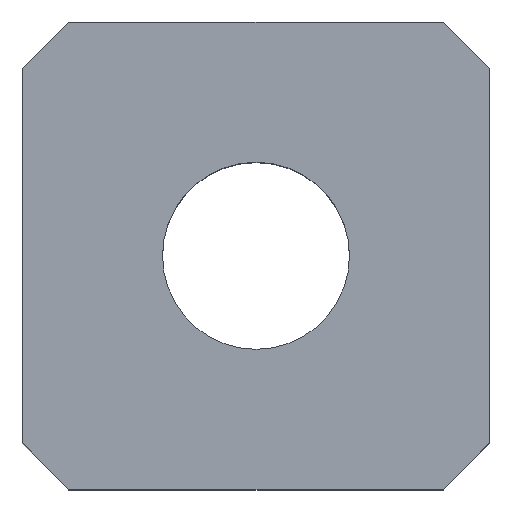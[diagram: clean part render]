
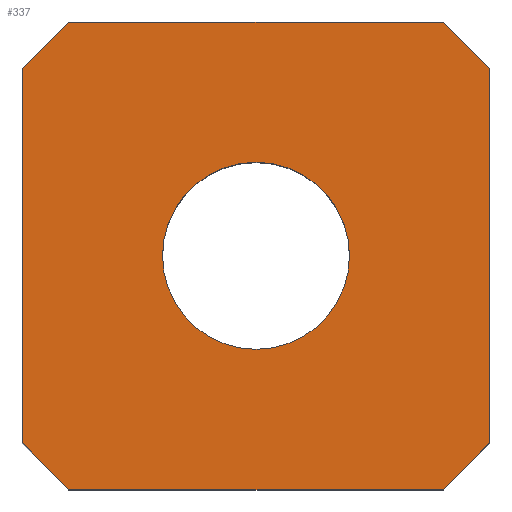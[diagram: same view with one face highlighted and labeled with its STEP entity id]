
A CAD part, top view. The second image highlights one B-rep face of the part: STEP entity #337.
In plain terms, the highlighted planar face has unit normal (0, 0, 1).
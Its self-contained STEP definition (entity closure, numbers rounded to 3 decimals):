
#7 = VECTOR ( 'NONE', #179, 1000. ) ;
#17 = VERTEX_POINT ( 'NONE', #43 ) ;
#22 = DIRECTION ( 'NONE',  ( 0., 0., 1. ) ) ;
#30 = LINE ( 'NONE', #88, #7 ) ;
#31 = AXIS2_PLACEMENT_3D ( 'NONE', #313, #22, #173 ) ;
#33 = DIRECTION ( 'NONE',  ( 0.707, -0.707, 0. ) ) ;
#34 = ORIENTED_EDGE ( 'NONE', *, *, #242, .T. ) ;
#36 = VECTOR ( 'NONE', #268, 1000. ) ;
#37 = VERTEX_POINT ( 'NONE', #310 ) ;
#42 = VERTEX_POINT ( 'NONE', #105 ) ;
#43 = CARTESIAN_POINT ( 'NONE',  ( 0.15, 3.5, 4.8 ) ) ;
#45 = CARTESIAN_POINT ( 'NONE',  ( -8.85, -5.5, 4.8 ) ) ;
#46 = VERTEX_POINT ( 'NONE', #278 ) ;
#47 = EDGE_LOOP ( 'NONE', ( #96, #59, #401, #34, #376, #140, #379, #301 ) ) ;
#50 = DIRECTION ( 'NONE',  ( -0.707, 0.707, 0. ) ) ;
#52 = CARTESIAN_POINT ( 'NONE',  ( 0.15, -6.5, 4.8 ) ) ;
#55 = DIRECTION ( 'NONE',  ( 0., 0., 1. ) ) ;
#59 = ORIENTED_EDGE ( 'NONE', *, *, #238, .T. ) ;
#72 = DIRECTION ( 'NONE',  ( 0., 0., 1. ) ) ;
#83 = CARTESIAN_POINT ( 'NONE',  ( -8.85, -6.5, 4.8 ) ) ;
#88 = CARTESIAN_POINT ( 'NONE',  ( -8.85, 3.5, 4.8 ) ) ;
#89 = LINE ( 'NONE', #378, #342 ) ;
#90 = CARTESIAN_POINT ( 'NONE',  ( -5.675, 5.675, 4.8 ) ) ;
#96 = ORIENTED_EDGE ( 'NONE', *, *, #153, .T. ) ;
#99 = CIRCLE ( 'NONE', #374, 2. ) ;
#105 = CARTESIAN_POINT ( 'NONE',  ( 1.15, 2.5, 4.8 ) ) ;
#110 = VERTEX_POINT ( 'NONE', #45 ) ;
#129 = VECTOR ( 'NONE', #389, 1000. ) ;
#133 = FACE_BOUND ( 'NONE', #265, .T. ) ;
#140 = ORIENTED_EDGE ( 'NONE', *, *, #201, .T. ) ;
#141 = CARTESIAN_POINT ( 'NONE',  ( -5.85, -1.5, 4.8 ) ) ;
#142 = CARTESIAN_POINT ( 'NONE',  ( 1.825, 1.825, 4.8 ) ) ;
#152 = LINE ( 'NONE', #432, #349 ) ;
#153 = EDGE_CURVE ( 'NONE', #37, #42, #89, .T. ) ;
#154 = ORIENTED_EDGE ( 'NONE', *, *, #203, .F. ) ;
#158 = EDGE_CURVE ( 'NONE', #17, #46, #177, .T. ) ;
#160 = VERTEX_POINT ( 'NONE', #141 ) ;
#165 = CIRCLE ( 'NONE', #175, 2. ) ;
#173 = DIRECTION ( 'NONE',  ( 1., 0., 0. ) ) ;
#175 = AXIS2_PLACEMENT_3D ( 'NONE', #307, #72, #289 ) ;
#176 = EDGE_CURVE ( 'NONE', #392, #194, #443, .T. ) ;
#177 = LINE ( 'NONE', #424, #259 ) ;
#179 = DIRECTION ( 'NONE',  ( 0., -1., 0. ) ) ;
#193 = LINE ( 'NONE', #90, #36 ) ;
#194 = VERTEX_POINT ( 'NONE', #52 ) ;
#201 = EDGE_CURVE ( 'NONE', #110, #392, #152, .T. ) ;
#203 = EDGE_CURVE ( 'NONE', #160, #366, #165, .T. ) ;
#205 = VERTEX_POINT ( 'NONE', #298 ) ;
#214 = PLANE ( 'NONE',  #31 ) ;
#216 = VECTOR ( 'NONE', #316, 1000. ) ;
#217 = CARTESIAN_POINT ( 'NONE',  ( -1.85, -1.5, 4.8 ) ) ;
#223 = FACE_OUTER_BOUND ( 'NONE', #47, .T. ) ;
#225 = ORIENTED_EDGE ( 'NONE', *, *, #271, .F. ) ;
#233 = EDGE_CURVE ( 'NONE', #194, #37, #422, .T. ) ;
#238 = EDGE_CURVE ( 'NONE', #42, #17, #435, .T. ) ;
#242 = EDGE_CURVE ( 'NONE', #46, #205, #193, .T. ) ;
#243 = DIRECTION ( 'NONE',  ( 0., 1., 0. ) ) ;
#259 = VECTOR ( 'NONE', #281, 1000. ) ;
#265 = EDGE_LOOP ( 'NONE', ( #225, #154 ) ) ;
#268 = DIRECTION ( 'NONE',  ( -0.707, -0.707, 0. ) ) ;
#271 = EDGE_CURVE ( 'NONE', #366, #160, #99, .T. ) ;
#274 = EDGE_CURVE ( 'NONE', #205, #110, #30, .T. ) ;
#278 = CARTESIAN_POINT ( 'NONE',  ( -7.85, 3.5, 4.8 ) ) ;
#281 = DIRECTION ( 'NONE',  ( -1., 0., 0. ) ) ;
#289 = DIRECTION ( 'NONE',  ( 1., 0., 0. ) ) ;
#294 = VECTOR ( 'NONE', #50, 1000. ) ;
#298 = CARTESIAN_POINT ( 'NONE',  ( -8.85, 2.5, 4.8 ) ) ;
#301 = ORIENTED_EDGE ( 'NONE', *, *, #233, .T. ) ;
#307 = CARTESIAN_POINT ( 'NONE',  ( -3.85, -1.5, 4.8 ) ) ;
#310 = CARTESIAN_POINT ( 'NONE',  ( 1.15, -5.5, 4.8 ) ) ;
#313 = CARTESIAN_POINT ( 'NONE',  ( 0., 0., 4.8 ) ) ;
#316 = DIRECTION ( 'NONE',  ( 1., 0., 0. ) ) ;
#323 = DIRECTION ( 'NONE',  ( 1., 0., 0. ) ) ;
#337 = ADVANCED_FACE ( 'NONE', ( #133, #223 ), #214, .T. ) ;
#342 = VECTOR ( 'NONE', #243, 1000. ) ;
#349 = VECTOR ( 'NONE', #33, 1000. ) ;
#358 = CARTESIAN_POINT ( 'NONE',  ( -3.85, -1.5, 4.8 ) ) ;
#366 = VERTEX_POINT ( 'NONE', #217 ) ;
#369 = CARTESIAN_POINT ( 'NONE',  ( -7.85, -6.5, 4.8 ) ) ;
#374 = AXIS2_PLACEMENT_3D ( 'NONE', #358, #55, #323 ) ;
#376 = ORIENTED_EDGE ( 'NONE', *, *, #274, .T. ) ;
#378 = CARTESIAN_POINT ( 'NONE',  ( 1.15, 3.5, 4.8 ) ) ;
#379 = ORIENTED_EDGE ( 'NONE', *, *, #176, .T. ) ;
#389 = DIRECTION ( 'NONE',  ( 0.707, 0.707, 0. ) ) ;
#392 = VERTEX_POINT ( 'NONE', #369 ) ;
#396 = CARTESIAN_POINT ( 'NONE',  ( 3.325, -3.325, 4.8 ) ) ;
#401 = ORIENTED_EDGE ( 'NONE', *, *, #158, .T. ) ;
#422 = LINE ( 'NONE', #396, #129 ) ;
#424 = CARTESIAN_POINT ( 'NONE',  ( -8.85, 3.5, 4.8 ) ) ;
#432 = CARTESIAN_POINT ( 'NONE',  ( -7.175, -7.175, 4.8 ) ) ;
#435 = LINE ( 'NONE', #142, #294 ) ;
#443 = LINE ( 'NONE', #83, #216 ) ;
